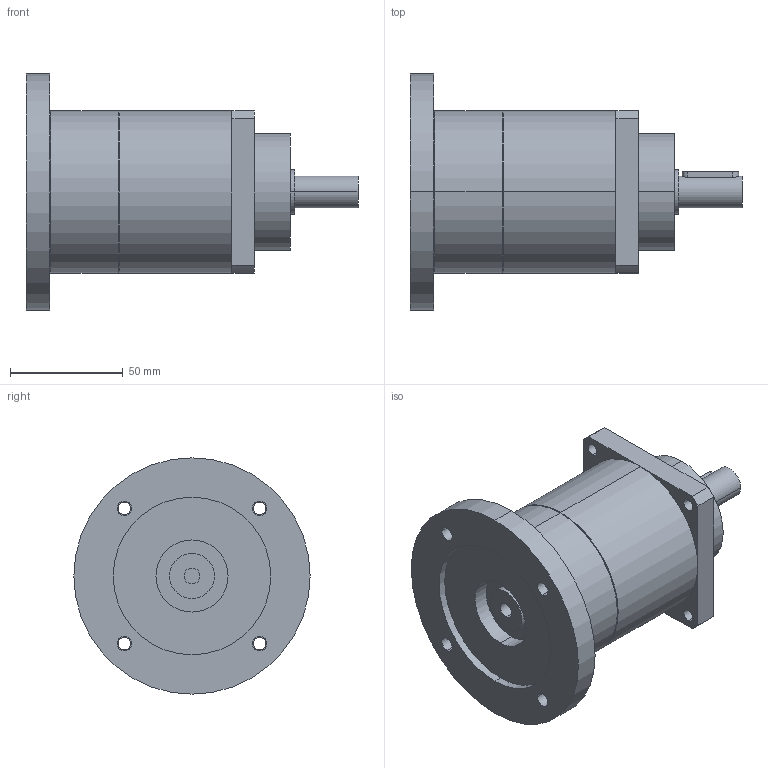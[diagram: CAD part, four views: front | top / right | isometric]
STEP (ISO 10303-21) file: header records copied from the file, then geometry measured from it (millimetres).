
FILE_DESCRIPTION(('CoCreate Modeling STEP Export'),'2;1');
FILE_NAME('GPT75_ig-9-12-16-20-25-28-35-40-50-70-100_14_B5T_7_P05.stp','2014-08-27T13:40:43',(''),(''),'CoCreate Modeling STEP processor for AP214 (Solid Model)','CoCreate Modeling 16.00C 25-Feb-2009 (C) Parametric Technology GmbH','');
FILE_SCHEMA(('AUTOMOTIVE_DESIGN { 1 0 10303 214 1 1 1 1 }'));
Length unit declared in the file: millimetre
Products named in the file (2): GPT75_ig-9-12-16-20-25-28-35-40-50-70-100_14_B5T_7_P05
Assembly tree (1 placements, depth 2):
  GPT75_ig-9-12-16-20-25-28-35-40-50-70-100_14_B5T_7_P05
    GPT75_ig-9-12-16-20-25-28-35-40-50-70-100_14_B5T_7_P05
Bounding box: 147.5 x 105 x 105 mm (x, y, z)
Volume: 489622.4 mm3; surface area: 52175.9 mm2
Topology: 1 solids, 1 shells, 71 faces, 178 edges, 119 vertices
Faces by surface type: cylinder 44, plane 23, cone 4
Entity records: 2277 total; most frequent: CARTESIAN_POINT 682, ORIENTED_EDGE 356, DIRECTION 280, EDGE_CURVE 178, VERTEX_POINT 119, AXIS2_PLACEMENT_3D 105, EDGE_LOOP 97, FACE_OUTER_BOUND 71
